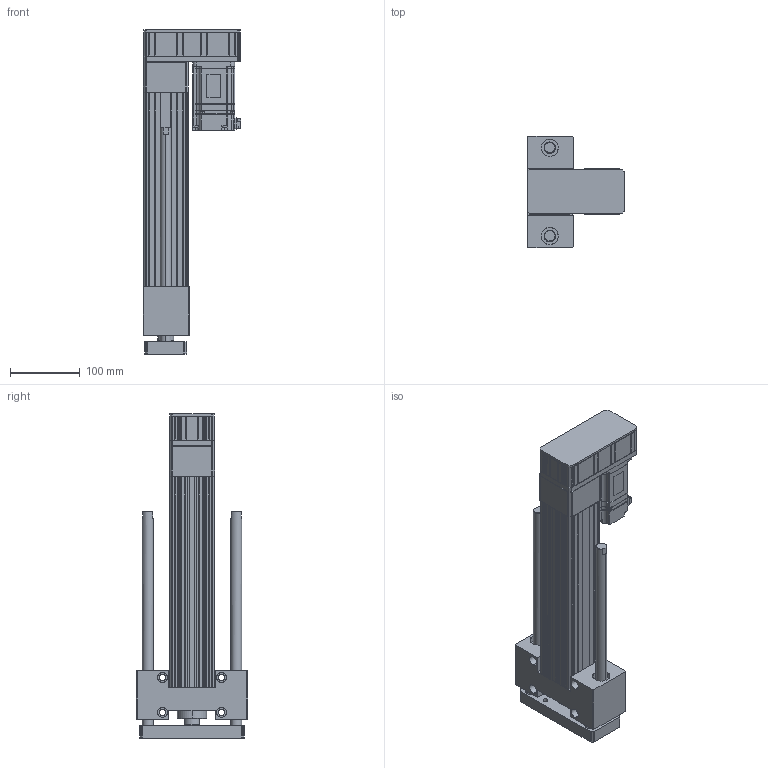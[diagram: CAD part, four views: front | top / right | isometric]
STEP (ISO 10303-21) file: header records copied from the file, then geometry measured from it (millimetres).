
FILE_DESCRIPTION (( 'STEP AP203' ), '1' );
FILE_NAME ('ANS065R-HP200-05(10)(20)-W40.STEP', '2019-03-01T09:40:10', ( 'user' ), ( '' ), 'SwSTEP 2.0', 'SolidWorks 2013', '' );
FILE_SCHEMA (( 'CONFIG_CONTROL_DESIGN' ));
Length unit declared in the file: millimetre
Products named in the file (4): ANS065R HP200 VER2; ANS065 ROD ST200 H; sgmjv_04a_a21; ANS065R-HP200-05(10)(20)-W40
Assembly tree (3 placements, depth 2):
  ANS065R-HP200-05(10)(20)-W40
    ANS065R HP200 VER2
    ANS065 ROD ST200 H
    sgmjv_04a_a21
Bounding box: 140.3 x 160 x 466 mm (x, y, z)
Volume: 2065888.9 mm3; surface area: 459145.1 mm2
Topology: 3 solids, 7 shells, 1457 faces, 3867 edges, 2498 vertices
Faces by surface type: plane 895, cylinder 452, cone 110
Entity records: 45317 total; most frequent: CARTESIAN_POINT 8114, ORIENTED_EDGE 7694, DIRECTION 7647, EDGE_CURVE 3847, VECTOR 2785, LINE 2785, VERTEX_POINT 2498, AXIS2_PLACEMENT_3D 2431
